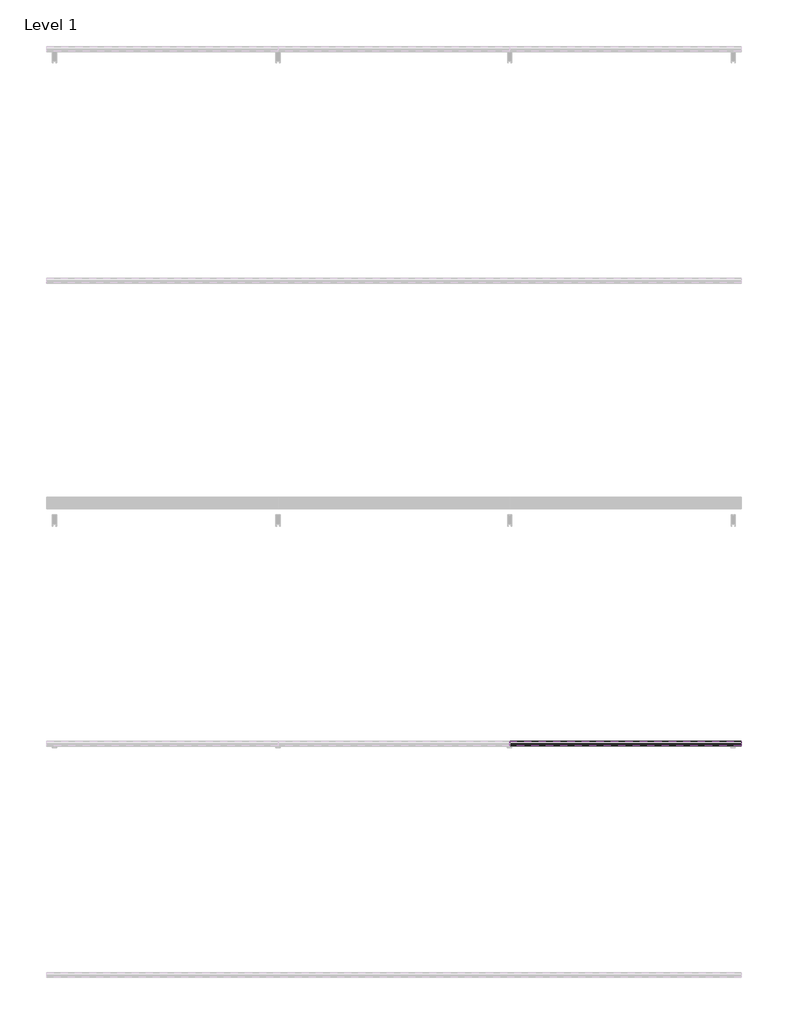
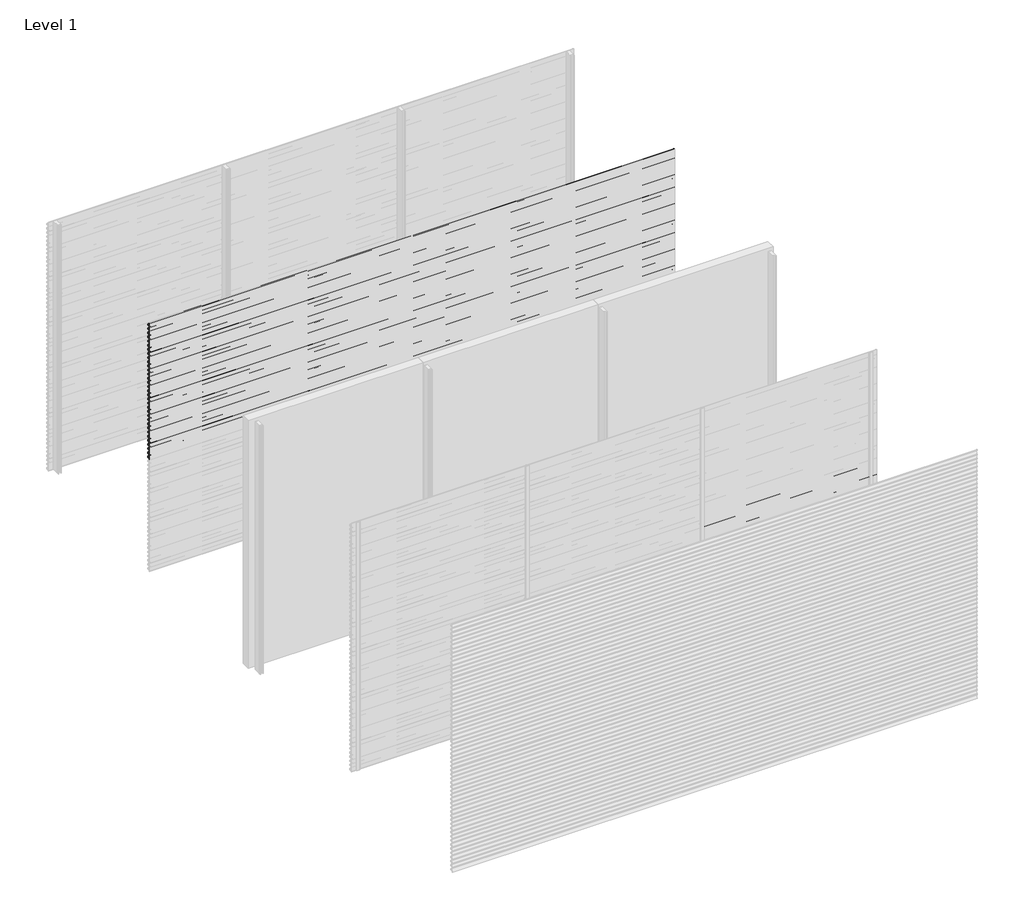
# One storey, part 24 of 38: 66 proxies.
"""IFC4 building model written with IfcOpenShell, lengths in millimetres."""

from ifc_helpers import new_model, si_unit, frame, origin, place, context, project, spatial, polyline, outline, extrude, element, save

model = new_model("IFC4")

# Units and contexts
model_context = context("Model", 3, world=origin())
ifc_project = project(units=[si_unit("LENGTHUNIT", "METRE", prefix="MILLI")], contexts=[model_context])

# Site, building, storey
site = spatial("IfcSite", under=ifc_project)
building = spatial("IfcBuilding", under=site)
storey = spatial("IfcBuildingStorey", under=building, Name="Level 1", Elevation=0.0)

# Proxies
placement = place(None, origin())
element("IfcBuildingElementProxy", 1, Name="Wall Sweeps", at=placement, inside=storey, context=model_context, shape_type="SweptSolid", body=[
    extrude(outline(polyline([(-19996.75, 3000.0), (-19996.75, 2989.19656), (-19974.6057113, 2976.4115489), (-19957.0, 2959.0472005), (-19957.0, 2944.0472005), (-19958.3, 2945.0268207), (-19958.3, 2958.5034593), (-19969.4914725, 2969.541504), (-19994.2797376, 2940.0), (-19995.9767671, 2940.0), (-19970.4200307, 2970.4573323), (-19975.3999793, 2975.3690091), (-19998.0, 2988.4171371), (-19998.0, 3000.0), (-19996.75, 3000.0)])), frame((0.0, 0.0, 0.0), z_axis=(1.0, 0.0, 0.0), x_axis=(0.0, 1.0, 0.0)), (0.0, 0.0, 1.0), 6000.0),
])
element("IfcBuildingElementProxy", 2, Name="Wall Sweeps", at=placement, inside=storey, context=model_context, shape_type="SweptSolid", body=[
    extrude(outline(polyline([(-19996.75, 2950.0), (-19996.75, 2939.19656), (-19974.6057113, 2926.4115489), (-19957.0, 2909.0472005), (-19957.0, 2894.0472005), (-19958.3, 2895.0268207), (-19958.3, 2908.5034593), (-19969.4914725, 2919.541504), (-19994.2797376, 2890.0), (-19995.9767671, 2890.0), (-19970.4200307, 2920.4573323), (-19975.3999793, 2925.3690091), (-19998.0, 2938.4171371), (-19998.0, 2950.0), (-19996.75, 2950.0)])), frame((0.0, 0.0, 0.0), z_axis=(1.0, 0.0, 0.0), x_axis=(0.0, 1.0, 0.0)), (0.0, 0.0, 1.0), 6000.0),
])
element("IfcBuildingElementProxy", 3, Name="Wall Sweeps", at=placement, inside=storey, context=model_context, shape_type="SweptSolid", body=[
    extrude(outline(polyline([(-19996.75, 2900.0), (-19996.75, 2889.19656), (-19974.6057113, 2876.4115489), (-19957.0, 2859.0472005), (-19957.0, 2844.0472005), (-19958.3, 2845.0268207), (-19958.3, 2858.5034593), (-19969.4914725, 2869.541504), (-19994.2797376, 2840.0), (-19995.9767671, 2840.0), (-19970.4200307, 2870.4573323), (-19975.3999793, 2875.3690091), (-19998.0, 2888.4171371), (-19998.0, 2900.0), (-19996.75, 2900.0)])), frame((0.0, 0.0, 0.0), z_axis=(1.0, 0.0, 0.0), x_axis=(0.0, 1.0, 0.0)), (0.0, 0.0, 1.0), 6000.0),
])
element("IfcBuildingElementProxy", 4, Name="Wall Sweeps", at=placement, inside=storey, context=model_context, shape_type="SweptSolid", body=[
    extrude(outline(polyline([(-19996.75, 2850.0), (-19996.75, 2839.19656), (-19974.6057113, 2826.4115489), (-19957.0, 2809.0472005), (-19957.0, 2794.0472005), (-19958.3, 2795.0268207), (-19958.3, 2808.5034593), (-19969.4914725, 2819.541504), (-19994.2797376, 2790.0), (-19995.9767671, 2790.0), (-19970.4200307, 2820.4573323), (-19975.3999793, 2825.3690091), (-19998.0, 2838.4171371), (-19998.0, 2850.0), (-19996.75, 2850.0)])), frame((0.0, 0.0, 0.0), z_axis=(1.0, 0.0, 0.0), x_axis=(0.0, 1.0, 0.0)), (0.0, 0.0, 1.0), 6000.0),
])
element("IfcBuildingElementProxy", 5, Name="Wall Sweeps", at=placement, inside=storey, context=model_context, shape_type="SweptSolid", body=[
    extrude(outline(polyline([(-19996.75, 2800.0), (-19996.75, 2789.19656), (-19974.6057113, 2776.4115489), (-19957.0, 2759.0472005), (-19957.0, 2744.0472005), (-19958.3, 2745.0268207), (-19958.3, 2758.5034593), (-19969.4914725, 2769.541504), (-19994.2797376, 2740.0), (-19995.9767671, 2740.0), (-19970.4200307, 2770.4573323), (-19975.3999793, 2775.3690091), (-19998.0, 2788.4171371), (-19998.0, 2800.0), (-19996.75, 2800.0)])), frame((0.0, 0.0, 0.0), z_axis=(1.0, 0.0, 0.0), x_axis=(0.0, 1.0, 0.0)), (0.0, 0.0, 1.0), 6000.0),
])
element("IfcBuildingElementProxy", 6, Name="Wall Sweeps", at=placement, inside=storey, context=model_context, shape_type="SweptSolid", body=[
    extrude(outline(polyline([(-19996.75, 2750.0), (-19996.75, 2739.19656), (-19974.6057113, 2726.4115489), (-19957.0, 2709.0472005), (-19957.0, 2694.0472005), (-19958.3, 2695.0268207), (-19958.3, 2708.5034593), (-19969.4914725, 2719.541504), (-19994.2797376, 2690.0), (-19995.9767671, 2690.0), (-19970.4200307, 2720.4573323), (-19975.3999793, 2725.3690091), (-19998.0, 2738.4171371), (-19998.0, 2750.0), (-19996.75, 2750.0)])), frame((0.0, 0.0, 0.0), z_axis=(1.0, 0.0, 0.0), x_axis=(0.0, 1.0, 0.0)), (0.0, 0.0, 1.0), 6000.0),
])
element("IfcBuildingElementProxy", 7, Name="Wall Sweeps", at=placement, inside=storey, context=model_context, shape_type="SweptSolid", body=[
    extrude(outline(polyline([(-19996.75, 2700.0), (-19996.75, 2689.19656), (-19974.6057113, 2676.4115489), (-19957.0, 2659.0472005), (-19957.0, 2644.0472005), (-19958.3, 2645.0268207), (-19958.3, 2658.5034593), (-19969.4914725, 2669.541504), (-19994.2797376, 2640.0), (-19995.9767671, 2640.0), (-19970.4200307, 2670.4573323), (-19975.3999793, 2675.3690091), (-19998.0, 2688.4171371), (-19998.0, 2700.0), (-19996.75, 2700.0)])), frame((0.0, 0.0, 0.0), z_axis=(1.0, 0.0, 0.0), x_axis=(0.0, 1.0, 0.0)), (0.0, 0.0, 1.0), 6000.0),
])
element("IfcBuildingElementProxy", 8, Name="Wall Sweeps", at=placement, inside=storey, context=model_context, shape_type="SweptSolid", body=[
    extrude(outline(polyline([(-19996.75, 2650.0), (-19996.75, 2639.19656), (-19974.6057113, 2626.4115489), (-19957.0, 2609.0472005), (-19957.0, 2594.0472005), (-19958.3, 2595.0268207), (-19958.3, 2608.5034593), (-19969.4914725, 2619.541504), (-19994.2797376, 2590.0), (-19995.9767671, 2590.0), (-19970.4200307, 2620.4573323), (-19975.3999793, 2625.3690091), (-19998.0, 2638.4171371), (-19998.0, 2650.0), (-19996.75, 2650.0)])), frame((0.0, 0.0, 0.0), z_axis=(1.0, 0.0, 0.0), x_axis=(0.0, 1.0, 0.0)), (0.0, 0.0, 1.0), 6000.0),
])
element("IfcBuildingElementProxy", 9, Name="Wall Sweeps", at=placement, inside=storey, context=model_context, shape_type="SweptSolid", body=[
    extrude(outline(polyline([(-19996.75, 2600.0), (-19996.75, 2589.19656), (-19974.6057113, 2576.4115489), (-19957.0, 2559.0472005), (-19957.0, 2544.0472005), (-19958.3, 2545.0268207), (-19958.3, 2558.5034593), (-19969.4914725, 2569.541504), (-19994.2797376, 2540.0), (-19995.9767671, 2540.0), (-19970.4200307, 2570.4573323), (-19975.3999793, 2575.3690091), (-19998.0, 2588.4171371), (-19998.0, 2600.0), (-19996.75, 2600.0)])), frame((0.0, 0.0, 0.0), z_axis=(1.0, 0.0, 0.0), x_axis=(0.0, 1.0, 0.0)), (0.0, 0.0, 1.0), 6000.0),
])
element("IfcBuildingElementProxy", 10, Name="Wall Sweeps", at=placement, inside=storey, context=model_context, shape_type="SweptSolid", body=[
    extrude(outline(polyline([(-19996.75, 2550.0), (-19996.75, 2539.19656), (-19974.6057113, 2526.4115489), (-19957.0, 2509.0472005), (-19957.0, 2494.0472005), (-19958.3, 2495.0268207), (-19958.3, 2508.5034593), (-19969.4914725, 2519.541504), (-19994.2797376, 2490.0), (-19995.9767671, 2490.0), (-19970.4200307, 2520.4573323), (-19975.3999793, 2525.3690091), (-19998.0, 2538.4171371), (-19998.0, 2550.0), (-19996.75, 2550.0)])), frame((0.0, 0.0, 0.0), z_axis=(1.0, 0.0, 0.0), x_axis=(0.0, 1.0, 0.0)), (0.0, 0.0, 1.0), 6000.0),
])
element("IfcBuildingElementProxy", 11, Name="Wall Sweeps", at=placement, inside=storey, context=model_context, shape_type="SweptSolid", body=[
    extrude(outline(polyline([(-19996.75, 2500.0), (-19996.75, 2489.19656), (-19974.6057113, 2476.4115489), (-19957.0, 2459.0472005), (-19957.0, 2444.0472005), (-19958.3, 2445.0268207), (-19958.3, 2458.5034593), (-19969.4914725, 2469.541504), (-19994.2797376, 2440.0), (-19995.9767671, 2440.0), (-19970.4200307, 2470.4573323), (-19975.3999793, 2475.3690091), (-19998.0, 2488.4171371), (-19998.0, 2500.0), (-19996.75, 2500.0)])), frame((0.0, 0.0, 0.0), z_axis=(1.0, 0.0, 0.0), x_axis=(0.0, 1.0, 0.0)), (0.0, 0.0, 1.0), 6000.0),
])
element("IfcBuildingElementProxy", 12, Name="Wall Sweeps", at=placement, inside=storey, context=model_context, shape_type="SweptSolid", body=[
    extrude(outline(polyline([(-19996.75, 2450.0), (-19996.75, 2439.19656), (-19974.6057113, 2426.4115489), (-19957.0, 2409.0472005), (-19957.0, 2394.0472005), (-19958.3, 2395.0268207), (-19958.3, 2408.5034593), (-19969.4914725, 2419.541504), (-19994.2797376, 2390.0), (-19995.9767671, 2390.0), (-19970.4200307, 2420.4573323), (-19975.3999793, 2425.3690091), (-19998.0, 2438.4171371), (-19998.0, 2450.0), (-19996.75, 2450.0)])), frame((0.0, 0.0, 0.0), z_axis=(1.0, 0.0, 0.0), x_axis=(0.0, 1.0, 0.0)), (0.0, 0.0, 1.0), 6000.0),
])
element("IfcBuildingElementProxy", 13, Name="Wall Sweeps", at=placement, inside=storey, context=model_context, shape_type="SweptSolid", body=[
    extrude(outline(polyline([(-19996.75, 2400.0), (-19996.75, 2389.19656), (-19974.6057113, 2376.4115489), (-19957.0, 2359.0472005), (-19957.0, 2344.0472005), (-19958.3, 2345.0268207), (-19958.3, 2358.5034593), (-19969.4914725, 2369.541504), (-19994.2797376, 2340.0), (-19995.9767671, 2340.0), (-19970.4200307, 2370.4573323), (-19975.3999793, 2375.3690091), (-19998.0, 2388.4171371), (-19998.0, 2400.0), (-19996.75, 2400.0)])), frame((0.0, 0.0, 0.0), z_axis=(1.0, 0.0, 0.0), x_axis=(0.0, 1.0, 0.0)), (0.0, 0.0, 1.0), 6000.0),
])
element("IfcBuildingElementProxy", 14, Name="Wall Sweeps", at=placement, inside=storey, context=model_context, shape_type="SweptSolid", body=[
    extrude(outline(polyline([(-19996.75, 2350.0), (-19996.75, 2339.19656), (-19974.6057113, 2326.4115489), (-19957.0, 2309.0472005), (-19957.0, 2294.0472005), (-19958.3, 2295.0268207), (-19958.3, 2308.5034593), (-19969.4914725, 2319.541504), (-19994.2797376, 2290.0), (-19995.9767671, 2290.0), (-19970.4200307, 2320.4573323), (-19975.3999793, 2325.3690091), (-19998.0, 2338.4171371), (-19998.0, 2350.0), (-19996.75, 2350.0)])), frame((0.0, 0.0, 0.0), z_axis=(1.0, 0.0, 0.0), x_axis=(0.0, 1.0, 0.0)), (0.0, 0.0, 1.0), 6000.0),
])
element("IfcBuildingElementProxy", 15, Name="Wall Sweeps", at=placement, inside=storey, context=model_context, shape_type="SweptSolid", body=[
    extrude(outline(polyline([(-19996.75, 2300.0), (-19996.75, 2289.19656), (-19974.6057113, 2276.4115489), (-19957.0, 2259.0472005), (-19957.0, 2244.0472005), (-19958.3, 2245.0268207), (-19958.3, 2258.5034593), (-19969.4914725, 2269.541504), (-19994.2797376, 2240.0), (-19995.9767671, 2240.0), (-19970.4200307, 2270.4573323), (-19975.3999793, 2275.3690091), (-19998.0, 2288.4171371), (-19998.0, 2300.0), (-19996.75, 2300.0)])), frame((0.0, 0.0, 0.0), z_axis=(1.0, 0.0, 0.0), x_axis=(0.0, 1.0, 0.0)), (0.0, 0.0, 1.0), 6000.0),
])
element("IfcBuildingElementProxy", 16, Name="Wall Sweeps", at=placement, inside=storey, context=model_context, shape_type="SweptSolid", body=[
    extrude(outline(polyline([(-19996.75, 2250.0), (-19996.75, 2239.19656), (-19974.6057113, 2226.4115489), (-19957.0, 2209.0472005), (-19957.0, 2194.0472005), (-19958.3, 2195.0268207), (-19958.3, 2208.5034593), (-19969.4914725, 2219.541504), (-19994.2797376, 2190.0), (-19995.9767671, 2190.0), (-19970.4200307, 2220.4573323), (-19975.3999793, 2225.3690091), (-19998.0, 2238.4171371), (-19998.0, 2250.0), (-19996.75, 2250.0)])), frame((0.0, 0.0, 0.0), z_axis=(1.0, 0.0, 0.0), x_axis=(0.0, 1.0, 0.0)), (0.0, 0.0, 1.0), 6000.0),
])
element("IfcBuildingElementProxy", 17, Name="Wall Sweeps", at=placement, inside=storey, context=model_context, shape_type="SweptSolid", body=[
    extrude(outline(polyline([(-19996.75, 2200.0), (-19996.75, 2189.19656), (-19974.6057113, 2176.4115489), (-19957.0, 2159.0472005), (-19957.0, 2144.0472005), (-19958.3, 2145.0268207), (-19958.3, 2158.5034593), (-19969.4914725, 2169.541504), (-19994.2797376, 2140.0), (-19995.9767671, 2140.0), (-19970.4200307, 2170.4573323), (-19975.3999793, 2175.3690091), (-19998.0, 2188.4171371), (-19998.0, 2200.0), (-19996.75, 2200.0)])), frame((0.0, 0.0, 0.0), z_axis=(1.0, 0.0, 0.0), x_axis=(0.0, 1.0, 0.0)), (0.0, 0.0, 1.0), 6000.0),
])
element("IfcBuildingElementProxy", 18, Name="Wall Sweeps", at=placement, inside=storey, context=model_context, shape_type="SweptSolid", body=[
    extrude(outline(polyline([(-19996.75, 2150.0), (-19996.75, 2139.19656), (-19974.6057113, 2126.4115489), (-19957.0, 2109.0472005), (-19957.0, 2094.0472005), (-19958.3, 2095.0268207), (-19958.3, 2108.5034593), (-19969.4914725, 2119.541504), (-19994.2797376, 2090.0), (-19995.9767671, 2090.0), (-19970.4200307, 2120.4573323), (-19975.3999793, 2125.3690091), (-19998.0, 2138.4171371), (-19998.0, 2150.0), (-19996.75, 2150.0)])), frame((0.0, 0.0, 0.0), z_axis=(1.0, 0.0, 0.0), x_axis=(0.0, 1.0, 0.0)), (0.0, 0.0, 1.0), 6000.0),
])
element("IfcBuildingElementProxy", 19, Name="Wall Sweeps", at=placement, inside=storey, context=model_context, shape_type="SweptSolid", body=[
    extrude(outline(polyline([(-19996.75, 2100.0), (-19996.75, 2089.19656), (-19974.6057113, 2076.4115489), (-19957.0, 2059.0472005), (-19957.0, 2044.0472005), (-19958.3, 2045.0268207), (-19958.3, 2058.5034593), (-19969.4914725, 2069.541504), (-19994.2797376, 2040.0), (-19995.9767671, 2040.0), (-19970.4200307, 2070.4573323), (-19975.3999793, 2075.3690091), (-19998.0, 2088.4171371), (-19998.0, 2100.0), (-19996.75, 2100.0)])), frame((0.0, 0.0, 0.0), z_axis=(1.0, 0.0, 0.0), x_axis=(0.0, 1.0, 0.0)), (0.0, 0.0, 1.0), 6000.0),
])
element("IfcBuildingElementProxy", 20, Name="Wall Sweeps", at=placement, inside=storey, context=model_context, shape_type="SweptSolid", body=[
    extrude(outline(polyline([(-19996.75, 2050.0), (-19996.75, 2039.19656), (-19974.6057113, 2026.4115489), (-19957.0, 2009.0472005), (-19957.0, 1994.0472005), (-19958.3, 1995.0268207), (-19958.3, 2008.5034593), (-19969.4914725, 2019.541504), (-19994.2797376, 1990.0), (-19995.9767671, 1990.0), (-19970.4200307, 2020.4573323), (-19975.3999793, 2025.3690091), (-19998.0, 2038.4171371), (-19998.0, 2050.0), (-19996.75, 2050.0)])), frame((0.0, 0.0, 0.0), z_axis=(1.0, 0.0, 0.0), x_axis=(0.0, 1.0, 0.0)), (0.0, 0.0, 1.0), 6000.0),
])
element("IfcBuildingElementProxy", 21, Name="Wall Sweeps", at=placement, inside=storey, context=model_context, shape_type="SweptSolid", body=[
    extrude(outline(polyline([(-19996.75, 2000.0), (-19996.75, 1989.19656), (-19974.6057113, 1976.4115489), (-19957.0, 1959.0472005), (-19957.0, 1944.0472005), (-19958.3, 1945.0268207), (-19958.3, 1958.5034593), (-19969.4914725, 1969.541504), (-19994.2797376, 1940.0), (-19995.9767671, 1940.0), (-19970.4200307, 1970.4573323), (-19975.3999793, 1975.3690091), (-19998.0, 1988.4171371), (-19998.0, 2000.0), (-19996.75, 2000.0)])), frame((0.0, 0.0, 0.0), z_axis=(1.0, 0.0, 0.0), x_axis=(0.0, 1.0, 0.0)), (0.0, 0.0, 1.0), 6000.0),
])
element("IfcBuildingElementProxy", 22, Name="Wall Sweeps", at=placement, inside=storey, context=model_context, shape_type="SweptSolid", body=[
    extrude(outline(polyline([(-19996.75, 1950.0), (-19996.75, 1939.19656), (-19974.6057113, 1926.4115489), (-19957.0, 1909.0472005), (-19957.0, 1894.0472005), (-19958.3, 1895.0268207), (-19958.3, 1908.5034593), (-19969.4914725, 1919.541504), (-19994.2797376, 1890.0), (-19995.9767671, 1890.0), (-19970.4200307, 1920.4573323), (-19975.3999793, 1925.3690091), (-19998.0, 1938.4171371), (-19998.0, 1950.0), (-19996.75, 1950.0)])), frame((0.0, 0.0, 0.0), z_axis=(1.0, 0.0, 0.0), x_axis=(0.0, 1.0, 0.0)), (0.0, 0.0, 1.0), 6000.0),
])
element("IfcBuildingElementProxy", 23, Name="Wall Sweeps", at=placement, inside=storey, context=model_context, shape_type="SweptSolid", body=[
    extrude(outline(polyline([(-19996.75, 1900.0), (-19996.75, 1889.19656), (-19974.6057113, 1876.4115489), (-19957.0, 1859.0472005), (-19957.0, 1844.0472005), (-19958.3, 1845.0268207), (-19958.3, 1858.5034593), (-19969.4914725, 1869.541504), (-19994.2797376, 1840.0), (-19995.9767671, 1840.0), (-19970.4200307, 1870.4573323), (-19975.3999793, 1875.3690091), (-19998.0, 1888.4171371), (-19998.0, 1900.0), (-19996.75, 1900.0)])), frame((0.0, 0.0, 0.0), z_axis=(1.0, 0.0, 0.0), x_axis=(0.0, 1.0, 0.0)), (0.0, 0.0, 1.0), 6000.0),
])
element("IfcBuildingElementProxy", 24, Name="Wall Sweeps", at=placement, inside=storey, context=model_context, shape_type="SweptSolid", body=[
    extrude(outline(polyline([(-19996.75, 1850.0), (-19996.75, 1839.19656), (-19974.6057113, 1826.4115489), (-19957.0, 1809.0472005), (-19957.0, 1794.0472005), (-19958.3, 1795.0268207), (-19958.3, 1808.5034593), (-19969.4914725, 1819.541504), (-19994.2797376, 1790.0), (-19995.9767671, 1790.0), (-19970.4200307, 1820.4573323), (-19975.3999793, 1825.3690091), (-19998.0, 1838.4171371), (-19998.0, 1850.0), (-19996.75, 1850.0)])), frame((0.0, 0.0, 0.0), z_axis=(1.0, 0.0, 0.0), x_axis=(0.0, 1.0, 0.0)), (0.0, 0.0, 1.0), 6000.0),
])
element("IfcBuildingElementProxy", 25, Name="Wall Sweeps", at=placement, inside=storey, context=model_context, shape_type="SweptSolid", body=[
    extrude(outline(polyline([(-19996.75, 1800.0), (-19996.75, 1789.19656), (-19974.6057113, 1776.4115489), (-19957.0, 1759.0472005), (-19957.0, 1744.0472005), (-19958.3, 1745.0268207), (-19958.3, 1758.5034593), (-19969.4914725, 1769.541504), (-19994.2797376, 1740.0), (-19995.9767671, 1740.0), (-19970.4200307, 1770.4573323), (-19975.3999793, 1775.3690091), (-19998.0, 1788.4171371), (-19998.0, 1800.0), (-19996.75, 1800.0)])), frame((0.0, 0.0, 0.0), z_axis=(1.0, 0.0, 0.0), x_axis=(0.0, 1.0, 0.0)), (0.0, 0.0, 1.0), 6000.0),
])
element("IfcBuildingElementProxy", 26, Name="Wall Sweeps", at=placement, inside=storey, context=model_context, shape_type="SweptSolid", body=[
    extrude(outline(polyline([(-19996.75, 1750.0), (-19996.75, 1739.19656), (-19974.6057113, 1726.4115489), (-19957.0, 1709.0472005), (-19957.0, 1694.0472005), (-19958.3, 1695.0268207), (-19958.3, 1708.5034593), (-19969.4914725, 1719.541504), (-19994.2797376, 1690.0), (-19995.9767671, 1690.0), (-19970.4200307, 1720.4573323), (-19975.3999793, 1725.3690091), (-19998.0, 1738.4171371), (-19998.0, 1750.0), (-19996.75, 1750.0)])), frame((0.0, 0.0, 0.0), z_axis=(1.0, 0.0, 0.0), x_axis=(0.0, 1.0, 0.0)), (0.0, 0.0, 1.0), 6000.0),
])
element("IfcBuildingElementProxy", 27, Name="Wall Sweeps", at=placement, inside=storey, context=model_context, shape_type="SweptSolid", body=[
    extrude(outline(polyline([(-19996.75, 1700.0), (-19996.75, 1689.19656), (-19974.6057113, 1676.4115489), (-19957.0, 1659.0472005), (-19957.0, 1644.0472005), (-19958.3, 1645.0268207), (-19958.3, 1658.5034593), (-19969.4914725, 1669.541504), (-19994.2797376, 1640.0), (-19995.9767671, 1640.0), (-19970.4200307, 1670.4573323), (-19975.3999793, 1675.3690091), (-19998.0, 1688.4171371), (-19998.0, 1700.0), (-19996.75, 1700.0)])), frame((0.0, 0.0, 0.0), z_axis=(1.0, 0.0, 0.0), x_axis=(0.0, 1.0, 0.0)), (0.0, 0.0, 1.0), 6000.0),
])
element("IfcBuildingElementProxy", 28, Name="Wall Sweeps", at=placement, inside=storey, context=model_context, shape_type="SweptSolid", body=[
    extrude(outline(polyline([(-19996.75, 1650.0), (-19996.75, 1639.19656), (-19974.6057113, 1626.4115489), (-19957.0, 1609.0472005), (-19957.0, 1594.0472005), (-19958.3, 1595.0268207), (-19958.3, 1608.5034593), (-19969.4914725, 1619.541504), (-19994.2797376, 1590.0), (-19995.9767671, 1590.0), (-19970.4200307, 1620.4573323), (-19975.3999793, 1625.3690091), (-19998.0, 1638.4171371), (-19998.0, 1650.0), (-19996.75, 1650.0)])), frame((0.0, 0.0, 0.0), z_axis=(1.0, 0.0, 0.0), x_axis=(0.0, 1.0, 0.0)), (0.0, 0.0, 1.0), 6000.0),
])
element("IfcBuildingElementProxy", 29, Name="Wall Sweeps", at=placement, inside=storey, context=model_context, shape_type="SweptSolid", body=[
    extrude(outline(polyline([(-19996.75, 1600.0), (-19996.75, 1589.19656), (-19974.6057113, 1576.4115489), (-19957.0, 1559.0472005), (-19957.0, 1544.0472005), (-19958.3, 1545.0268207), (-19958.3, 1558.5034593), (-19969.4914725, 1569.541504), (-19994.2797376, 1540.0), (-19995.9767671, 1540.0), (-19970.4200307, 1570.4573323), (-19975.3999793, 1575.3690091), (-19998.0, 1588.4171371), (-19998.0, 1600.0), (-19996.75, 1600.0)])), frame((0.0, 0.0, 0.0), z_axis=(1.0, 0.0, 0.0), x_axis=(0.0, 1.0, 0.0)), (0.0, 0.0, 1.0), 6000.0),
])
element("IfcBuildingElementProxy", 30, Name="Wall Sweeps", at=placement, inside=storey, context=model_context, shape_type="SweptSolid", body=[
    extrude(outline(polyline([(-19996.75, 1550.0), (-19996.75, 1539.19656), (-19974.6057113, 1526.4115489), (-19957.0, 1509.0472005), (-19957.0, 1494.0472005), (-19958.3, 1495.0268207), (-19958.3, 1508.5034593), (-19969.4914725, 1519.541504), (-19994.2797376, 1490.0), (-19995.9767671, 1490.0), (-19970.4200307, 1520.4573323), (-19975.3999793, 1525.3690091), (-19998.0, 1538.4171371), (-19998.0, 1550.0), (-19996.75, 1550.0)])), frame((0.0, 0.0, 0.0), z_axis=(1.0, 0.0, 0.0), x_axis=(0.0, 1.0, 0.0)), (0.0, 0.0, 1.0), 6000.0),
])
element("IfcBuildingElementProxy", 31, Name="Wall Sweeps", at=placement, inside=storey, context=model_context, shape_type="SweptSolid", body=[
    extrude(outline(polyline([(-19996.75, 1500.0), (-19996.75, 1489.19656), (-19974.6057113, 1476.4115489), (-19957.0, 1459.0472005), (-19957.0, 1444.0472005), (-19958.3, 1445.0268207), (-19958.3, 1458.5034593), (-19969.4914725, 1469.541504), (-19994.2797376, 1440.0), (-19995.9767671, 1440.0), (-19970.4200307, 1470.4573323), (-19975.3999793, 1475.3690091), (-19998.0, 1488.4171371), (-19998.0, 1500.0), (-19996.75, 1500.0)])), frame((0.0, 0.0, 0.0), z_axis=(1.0, 0.0, 0.0), x_axis=(0.0, 1.0, 0.0)), (0.0, 0.0, 1.0), 6000.0),
])
element("IfcBuildingElementProxy", 32, Name="Wall Sweeps", at=placement, inside=storey, context=model_context, shape_type="SweptSolid", body=[
    extrude(outline(polyline([(-19996.75, 1450.0), (-19996.75, 1439.19656), (-19974.6057113, 1426.4115489), (-19957.0, 1409.0472005), (-19957.0, 1394.0472005), (-19958.3, 1395.0268207), (-19958.3, 1408.5034593), (-19969.4914725, 1419.541504), (-19994.2797376, 1390.0), (-19995.9767671, 1390.0), (-19970.4200307, 1420.4573323), (-19975.3999793, 1425.3690091), (-19998.0, 1438.4171371), (-19998.0, 1450.0), (-19996.75, 1450.0)])), frame((0.0, 0.0, 0.0), z_axis=(1.0, 0.0, 0.0), x_axis=(0.0, 1.0, 0.0)), (0.0, 0.0, 1.0), 6000.0),
])
element("IfcBuildingElementProxy", 33, Name="Wall Sweeps", at=placement, inside=storey, context=model_context, shape_type="SweptSolid", body=[
    extrude(outline(polyline([(-19996.75, 1400.0), (-19996.75, 1389.19656), (-19974.6057113, 1376.4115489), (-19957.0, 1359.0472005), (-19957.0, 1344.0472005), (-19958.3, 1345.0268207), (-19958.3, 1358.5034593), (-19969.4914725, 1369.541504), (-19994.2797376, 1340.0), (-19995.9767671, 1340.0), (-19970.4200307, 1370.4573323), (-19975.3999793, 1375.3690091), (-19998.0, 1388.4171371), (-19998.0, 1400.0), (-19996.75, 1400.0)])), frame((0.0, 0.0, 0.0), z_axis=(1.0, 0.0, 0.0), x_axis=(0.0, 1.0, 0.0)), (0.0, 0.0, 1.0), 6000.0),
])
element("IfcBuildingElementProxy", 34, Name="Wall Sweeps", at=placement, inside=storey, context=model_context, shape_type="SweptSolid", body=[
    extrude(outline(polyline([(-23996.75, 1650.0), (-23996.75, 1639.19656), (-23974.6057113, 1626.4115489), (-23957.0, 1609.0472005), (-23957.0, 1594.0472005), (-23958.3, 1595.0268207), (-23958.3, 1608.5034593), (-23969.4914725, 1619.541504), (-23994.2797376, 1590.0), (-23995.9767671, 1590.0), (-23970.4200307, 1620.4573323), (-23975.3999793, 1625.3690091), (-23998.0, 1638.4171371), (-23998.0, 1650.0), (-23996.75, 1650.0)])), frame((4000.0, 0.0, 0.0), z_axis=(1.0, 0.0, 0.0), x_axis=(0.0, 1.0, 0.0)), (0.0, 0.0, 1.0), 2000.0),
])
element("IfcBuildingElementProxy", 35, Name="Wall Sweeps", at=placement, inside=storey, context=model_context, shape_type="SweptSolid", body=[
    extrude(outline(polyline([(-23996.75, 1600.0), (-23996.75, 1589.19656), (-23974.6057113, 1576.4115489), (-23957.0, 1559.0472005), (-23957.0, 1544.0472005), (-23958.3, 1545.0268207), (-23958.3, 1558.5034593), (-23969.4914725, 1569.541504), (-23994.2797376, 1540.0), (-23995.9767671, 1540.0), (-23970.4200307, 1570.4573323), (-23975.3999793, 1575.3690091), (-23998.0, 1588.4171371), (-23998.0, 1600.0), (-23996.75, 1600.0)])), frame((4000.0, 0.0, 0.0), z_axis=(1.0, 0.0, 0.0), x_axis=(0.0, 1.0, 0.0)), (0.0, 0.0, 1.0), 2000.0),
])
element("IfcBuildingElementProxy", 36, Name="Wall Sweeps", at=placement, inside=storey, context=model_context, shape_type="SweptSolid", body=[
    extrude(outline(polyline([(-23996.75, 1550.0), (-23996.75, 1539.19656), (-23974.6057113, 1526.4115489), (-23957.0, 1509.0472005), (-23957.0, 1494.0472005), (-23958.3, 1495.0268207), (-23958.3, 1508.5034593), (-23969.4914725, 1519.541504), (-23994.2797376, 1490.0), (-23995.9767671, 1490.0), (-23970.4200307, 1520.4573323), (-23975.3999793, 1525.3690091), (-23998.0, 1538.4171371), (-23998.0, 1550.0), (-23996.75, 1550.0)])), frame((4000.0, 0.0, 0.0), z_axis=(1.0, 0.0, 0.0), x_axis=(0.0, 1.0, 0.0)), (0.0, 0.0, 1.0), 2000.0),
])
element("IfcBuildingElementProxy", 37, Name="Wall Sweeps", at=placement, inside=storey, context=model_context, shape_type="SweptSolid", body=[
    extrude(outline(polyline([(-23996.75, 1500.0), (-23996.75, 1489.19656), (-23974.6057113, 1476.4115489), (-23957.0, 1459.0472005), (-23957.0, 1444.0472005), (-23958.3, 1445.0268207), (-23958.3, 1458.5034593), (-23969.4914725, 1469.541504), (-23994.2797376, 1440.0), (-23995.9767671, 1440.0), (-23970.4200307, 1470.4573323), (-23975.3999793, 1475.3690091), (-23998.0, 1488.4171371), (-23998.0, 1500.0), (-23996.75, 1500.0)])), frame((4000.0, 0.0, 0.0), z_axis=(1.0, 0.0, 0.0), x_axis=(0.0, 1.0, 0.0)), (0.0, 0.0, 1.0), 2000.0),
])
element("IfcBuildingElementProxy", 38, Name="Wall Sweeps", at=placement, inside=storey, context=model_context, shape_type="SweptSolid", body=[
    extrude(outline(polyline([(-23996.75, 1450.0), (-23996.75, 1439.19656), (-23974.6057113, 1426.4115489), (-23957.0, 1409.0472005), (-23957.0, 1394.0472005), (-23958.3, 1395.0268207), (-23958.3, 1408.5034593), (-23969.4914725, 1419.541504), (-23994.2797376, 1390.0), (-23995.9767671, 1390.0), (-23970.4200307, 1420.4573323), (-23975.3999793, 1425.3690091), (-23998.0, 1438.4171371), (-23998.0, 1450.0), (-23996.75, 1450.0)])), frame((4000.0, 0.0, 0.0), z_axis=(1.0, 0.0, 0.0), x_axis=(0.0, 1.0, 0.0)), (0.0, 0.0, 1.0), 2000.0),
])
element("IfcBuildingElementProxy", 39, Name="Wall Sweeps", at=placement, inside=storey, context=model_context, shape_type="SweptSolid", body=[
    extrude(outline(polyline([(-23996.75, 1400.0), (-23996.75, 1389.19656), (-23974.6057113, 1376.4115489), (-23957.0, 1359.0472005), (-23957.0, 1344.0472005), (-23958.3, 1345.0268207), (-23958.3, 1358.5034593), (-23969.4914725, 1369.541504), (-23994.2797376, 1340.0), (-23995.9767671, 1340.0), (-23970.4200307, 1370.4573323), (-23975.3999793, 1375.3690091), (-23998.0, 1388.4171371), (-23998.0, 1400.0), (-23996.75, 1400.0)])), frame((4000.0, 0.0, 0.0), z_axis=(1.0, 0.0, 0.0), x_axis=(0.0, 1.0, 0.0)), (0.0, 0.0, 1.0), 2000.0),
])
element("IfcBuildingElementProxy", 40, Name="Wall Sweeps", at=placement, inside=storey, context=model_context, shape_type="SweptSolid", body=[
    extrude(outline(polyline([(-23996.75, 1350.0), (-23996.75, 1339.19656), (-23974.6057113, 1326.4115489), (-23957.0, 1309.0472005), (-23957.0, 1294.0472005), (-23958.3, 1295.0268207), (-23958.3, 1308.5034593), (-23969.4914725, 1319.541504), (-23994.2797376, 1290.0), (-23995.9767671, 1290.0), (-23970.4200307, 1320.4573323), (-23975.3999793, 1325.3690091), (-23998.0, 1338.4171371), (-23998.0, 1350.0), (-23996.75, 1350.0)])), frame((4000.0, 0.0, 0.0), z_axis=(1.0, 0.0, 0.0), x_axis=(0.0, 1.0, 0.0)), (0.0, 0.0, 1.0), 2000.0),
])
element("IfcBuildingElementProxy", 41, Name="Wall Sweeps", at=placement, inside=storey, context=model_context, shape_type="SweptSolid", body=[
    extrude(outline(polyline([(-23996.75, 1300.0), (-23996.75, 1289.19656), (-23974.6057113, 1276.4115489), (-23957.0, 1259.0472005), (-23957.0, 1244.0472005), (-23958.3, 1245.0268207), (-23958.3, 1258.5034593), (-23969.4914725, 1269.541504), (-23994.2797376, 1240.0), (-23995.9767671, 1240.0), (-23970.4200307, 1270.4573323), (-23975.3999793, 1275.3690091), (-23998.0, 1288.4171371), (-23998.0, 1300.0), (-23996.75, 1300.0)])), frame((4000.0, 0.0, 0.0), z_axis=(1.0, 0.0, 0.0), x_axis=(0.0, 1.0, 0.0)), (0.0, 0.0, 1.0), 2000.0),
])
element("IfcBuildingElementProxy", 42, Name="Wall Sweeps", at=placement, inside=storey, context=model_context, shape_type="SweptSolid", body=[
    extrude(outline(polyline([(-23996.75, 1250.0), (-23996.75, 1239.19656), (-23974.6057113, 1226.4115489), (-23957.0, 1209.0472005), (-23957.0, 1194.0472005), (-23958.3, 1195.0268207), (-23958.3, 1208.5034593), (-23969.4914725, 1219.541504), (-23994.2797376, 1190.0), (-23995.9767671, 1190.0), (-23970.4200307, 1220.4573323), (-23975.3999793, 1225.3690091), (-23998.0, 1238.4171371), (-23998.0, 1250.0), (-23996.75, 1250.0)])), frame((4000.0, 0.0, 0.0), z_axis=(1.0, 0.0, 0.0), x_axis=(0.0, 1.0, 0.0)), (0.0, 0.0, 1.0), 2000.0),
])
element("IfcBuildingElementProxy", 43, Name="Wall Sweeps", at=placement, inside=storey, context=model_context, shape_type="SweptSolid", body=[
    extrude(outline(polyline([(-23996.75, 1200.0), (-23996.75, 1189.19656), (-23974.6057113, 1176.4115489), (-23957.0, 1159.0472005), (-23957.0, 1144.0472005), (-23958.3, 1145.0268207), (-23958.3, 1158.5034593), (-23969.4914725, 1169.541504), (-23994.2797376, 1140.0), (-23995.9767671, 1140.0), (-23970.4200307, 1170.4573323), (-23975.3999793, 1175.3690091), (-23998.0, 1188.4171371), (-23998.0, 1200.0), (-23996.75, 1200.0)])), frame((4000.0, 0.0, 0.0), z_axis=(1.0, 0.0, 0.0), x_axis=(0.0, 1.0, 0.0)), (0.0, 0.0, 1.0), 2000.0),
])
element("IfcBuildingElementProxy", 44, Name="Wall Sweeps", at=placement, inside=storey, context=model_context, shape_type="SweptSolid", body=[
    extrude(outline(polyline([(-23996.75, 1150.0), (-23996.75, 1139.19656), (-23974.6057113, 1126.4115489), (-23957.0, 1109.0472005), (-23957.0, 1094.0472005), (-23958.3, 1095.0268207), (-23958.3, 1108.5034593), (-23969.4914725, 1119.541504), (-23994.2797376, 1090.0), (-23995.9767671, 1090.0), (-23970.4200307, 1120.4573323), (-23975.3999793, 1125.3690091), (-23998.0, 1138.4171371), (-23998.0, 1150.0), (-23996.75, 1150.0)])), frame((4000.0, 0.0, 0.0), z_axis=(1.0, 0.0, 0.0), x_axis=(0.0, 1.0, 0.0)), (0.0, 0.0, 1.0), 2000.0),
])
element("IfcBuildingElementProxy", 45, Name="Wall Sweeps", at=placement, inside=storey, context=model_context, shape_type="SweptSolid", body=[
    extrude(outline(polyline([(-23996.75, 1100.0), (-23996.75, 1089.19656), (-23974.6057113, 1076.4115489), (-23957.0, 1059.0472005), (-23957.0, 1044.0472005), (-23958.3, 1045.0268207), (-23958.3, 1058.5034593), (-23969.4914725, 1069.541504), (-23994.2797376, 1040.0), (-23995.9767671, 1040.0), (-23970.4200307, 1070.4573323), (-23975.3999793, 1075.3690091), (-23998.0, 1088.4171371), (-23998.0, 1100.0), (-23996.75, 1100.0)])), frame((4000.0, 0.0, 0.0), z_axis=(1.0, 0.0, 0.0), x_axis=(0.0, 1.0, 0.0)), (0.0, 0.0, 1.0), 2000.0),
])
element("IfcBuildingElementProxy", 46, Name="Wall Sweeps", at=placement, inside=storey, context=model_context, shape_type="SweptSolid", body=[
    extrude(outline(polyline([(-23996.75, 1050.0), (-23996.75, 1039.19656), (-23974.6057113, 1026.4115489), (-23957.0, 1009.0472005), (-23957.0, 994.0472005), (-23958.3, 995.0268207), (-23958.3, 1008.5034593), (-23969.4914725, 1019.541504), (-23994.2797376, 990.0), (-23995.9767671, 990.0), (-23970.4200307, 1020.4573323), (-23975.3999793, 1025.3690091), (-23998.0, 1038.4171371), (-23998.0, 1050.0), (-23996.75, 1050.0)])), frame((4000.0, 0.0, 0.0), z_axis=(1.0, 0.0, 0.0), x_axis=(0.0, 1.0, 0.0)), (0.0, 0.0, 1.0), 2000.0),
])
element("IfcBuildingElementProxy", 47, Name="Wall Sweeps", at=placement, inside=storey, context=model_context, shape_type="SweptSolid", body=[
    extrude(outline(polyline([(-23996.75, 1000.0), (-23996.75, 989.19656), (-23974.6057113, 976.4115489), (-23957.0, 959.0472005), (-23957.0, 944.0472005), (-23958.3, 945.0268207), (-23958.3, 958.5034593), (-23969.4914725, 969.541504), (-23994.2797376, 940.0), (-23995.9767671, 940.0), (-23970.4200307, 970.4573323), (-23975.3999793, 975.3690091), (-23998.0, 988.4171371), (-23998.0, 1000.0), (-23996.75, 1000.0)])), frame((4000.0, 0.0, 0.0), z_axis=(1.0, 0.0, 0.0), x_axis=(0.0, 1.0, 0.0)), (0.0, 0.0, 1.0), 2000.0),
])
element("IfcBuildingElementProxy", 48, Name="Wall Sweeps", at=placement, inside=storey, context=model_context, shape_type="SweptSolid", body=[
    extrude(outline(polyline([(-23996.75, 950.0), (-23996.75, 939.19656), (-23974.6057113, 926.4115489), (-23957.0, 909.0472005), (-23957.0, 894.0472005), (-23958.3, 895.0268207), (-23958.3, 908.5034593), (-23969.4914725, 919.541504), (-23994.2797376, 890.0), (-23995.9767671, 890.0), (-23970.4200307, 920.4573323), (-23975.3999793, 925.3690091), (-23998.0, 938.4171371), (-23998.0, 950.0), (-23996.75, 950.0)])), frame((4000.0, 0.0, 0.0), z_axis=(1.0, 0.0, 0.0), x_axis=(0.0, 1.0, 0.0)), (0.0, 0.0, 1.0), 2000.0),
])
element("IfcBuildingElementProxy", 49, Name="Wall Sweeps", at=placement, inside=storey, context=model_context, shape_type="SweptSolid", body=[
    extrude(outline(polyline([(-23996.75, 900.0), (-23996.75, 889.19656), (-23974.6057113, 876.4115489), (-23957.0, 859.0472005), (-23957.0, 844.0472005), (-23958.3, 845.0268207), (-23958.3, 858.5034593), (-23969.4914725, 869.541504), (-23994.2797376, 840.0), (-23995.9767671, 840.0), (-23970.4200307, 870.4573323), (-23975.3999793, 875.3690091), (-23998.0, 888.4171371), (-23998.0, 900.0), (-23996.75, 900.0)])), frame((4000.0, 0.0, 0.0), z_axis=(1.0, 0.0, 0.0), x_axis=(0.0, 1.0, 0.0)), (0.0, 0.0, 1.0), 2000.0),
])
element("IfcBuildingElementProxy", 50, Name="Wall Sweeps", at=placement, inside=storey, context=model_context, shape_type="SweptSolid", body=[
    extrude(outline(polyline([(-23996.75, 850.0), (-23996.75, 839.19656), (-23974.6057113, 826.4115489), (-23957.0, 809.0472005), (-23957.0, 794.0472005), (-23958.3, 795.0268207), (-23958.3, 808.5034593), (-23969.4914725, 819.541504), (-23994.2797376, 790.0), (-23995.9767671, 790.0), (-23970.4200307, 820.4573323), (-23975.3999793, 825.3690091), (-23998.0, 838.4171371), (-23998.0, 850.0), (-23996.75, 850.0)])), frame((4000.0, 0.0, 0.0), z_axis=(1.0, 0.0, 0.0), x_axis=(0.0, 1.0, 0.0)), (0.0, 0.0, 1.0), 2000.0),
])
element("IfcBuildingElementProxy", 51, Name="Wall Sweeps", at=placement, inside=storey, context=model_context, shape_type="SweptSolid", body=[
    extrude(outline(polyline([(-23996.75, 800.0), (-23996.75, 789.19656), (-23974.6057113, 776.4115489), (-23957.0, 759.0472005), (-23957.0, 744.0472005), (-23958.3, 745.0268207), (-23958.3, 758.5034593), (-23969.4914725, 769.541504), (-23994.2797376, 740.0), (-23995.9767671, 740.0), (-23970.4200307, 770.4573323), (-23975.3999793, 775.3690091), (-23998.0, 788.4171371), (-23998.0, 800.0), (-23996.75, 800.0)])), frame((4000.0, 0.0, 0.0), z_axis=(1.0, 0.0, 0.0), x_axis=(0.0, 1.0, 0.0)), (0.0, 0.0, 1.0), 2000.0),
])
element("IfcBuildingElementProxy", 52, Name="Wall Sweeps", at=placement, inside=storey, context=model_context, shape_type="SweptSolid", body=[
    extrude(outline(polyline([(-23996.75, 750.0), (-23996.75, 739.19656), (-23974.6057113, 726.4115489), (-23957.0, 709.0472005), (-23957.0, 694.0472005), (-23958.3, 695.0268207), (-23958.3, 708.5034593), (-23969.4914725, 719.541504), (-23994.2797376, 690.0), (-23995.9767671, 690.0), (-23970.4200307, 720.4573323), (-23975.3999793, 725.3690091), (-23998.0, 738.4171371), (-23998.0, 750.0), (-23996.75, 750.0)])), frame((4000.0, 0.0, 0.0), z_axis=(1.0, 0.0, 0.0), x_axis=(0.0, 1.0, 0.0)), (0.0, 0.0, 1.0), 2000.0),
])
element("IfcBuildingElementProxy", 53, Name="Wall Sweeps", at=placement, inside=storey, context=model_context, shape_type="SweptSolid", body=[
    extrude(outline(polyline([(-23996.75, 700.0), (-23996.75, 689.19656), (-23974.6057113, 676.4115489), (-23957.0, 659.0472005), (-23957.0, 644.0472005), (-23958.3, 645.0268207), (-23958.3, 658.5034593), (-23969.4914725, 669.541504), (-23994.2797376, 640.0), (-23995.9767671, 640.0), (-23970.4200307, 670.4573323), (-23975.3999793, 675.3690091), (-23998.0, 688.4171371), (-23998.0, 700.0), (-23996.75, 700.0)])), frame((4000.0, 0.0, 0.0), z_axis=(1.0, 0.0, 0.0), x_axis=(0.0, 1.0, 0.0)), (0.0, 0.0, 1.0), 2000.0),
])
element("IfcBuildingElementProxy", 54, Name="Wall Sweeps", at=placement, inside=storey, context=model_context, shape_type="SweptSolid", body=[
    extrude(outline(polyline([(-23996.75, 650.0), (-23996.75, 639.19656), (-23974.6057113, 626.4115489), (-23957.0, 609.0472005), (-23957.0, 594.0472005), (-23958.3, 595.0268207), (-23958.3, 608.5034593), (-23969.4914725, 619.541504), (-23994.2797376, 590.0), (-23995.9767671, 590.0), (-23970.4200307, 620.4573323), (-23975.3999793, 625.3690091), (-23998.0, 638.4171371), (-23998.0, 650.0), (-23996.75, 650.0)])), frame((4000.0, 0.0, 0.0), z_axis=(1.0, 0.0, 0.0), x_axis=(0.0, 1.0, 0.0)), (0.0, 0.0, 1.0), 2000.0),
])
element("IfcBuildingElementProxy", 55, Name="Wall Sweeps", at=placement, inside=storey, context=model_context, shape_type="SweptSolid", body=[
    extrude(outline(polyline([(-23996.75, 600.0), (-23996.75, 589.19656), (-23974.6057113, 576.4115489), (-23957.0, 559.0472005), (-23957.0, 544.0472005), (-23958.3, 545.0268207), (-23958.3, 558.5034593), (-23969.4914725, 569.541504), (-23994.2797376, 540.0), (-23995.9767671, 540.0), (-23970.4200307, 570.4573323), (-23975.3999793, 575.3690091), (-23998.0, 588.4171371), (-23998.0, 600.0), (-23996.75, 600.0)])), frame((4000.0, 0.0, 0.0), z_axis=(1.0, 0.0, 0.0), x_axis=(0.0, 1.0, 0.0)), (0.0, 0.0, 1.0), 2000.0),
])
element("IfcBuildingElementProxy", 56, Name="Wall Sweeps", at=placement, inside=storey, context=model_context, shape_type="SweptSolid", body=[
    extrude(outline(polyline([(-23996.75, 550.0), (-23996.75, 539.19656), (-23974.6057113, 526.4115489), (-23957.0, 509.0472005), (-23957.0, 494.0472005), (-23958.3, 495.0268207), (-23958.3, 508.5034593), (-23969.4914725, 519.541504), (-23994.2797376, 490.0), (-23995.9767671, 490.0), (-23970.4200307, 520.4573323), (-23975.3999793, 525.3690091), (-23998.0, 538.4171371), (-23998.0, 550.0), (-23996.75, 550.0)])), frame((4000.0, 0.0, 0.0), z_axis=(1.0, 0.0, 0.0), x_axis=(0.0, 1.0, 0.0)), (0.0, 0.0, 1.0), 2000.0),
])
element("IfcBuildingElementProxy", 57, Name="Wall Sweeps", at=placement, inside=storey, context=model_context, shape_type="SweptSolid", body=[
    extrude(outline(polyline([(-23996.75, 500.0), (-23996.75, 489.19656), (-23974.6057113, 476.4115489), (-23957.0, 459.0472005), (-23957.0, 444.0472005), (-23958.3, 445.0268207), (-23958.3, 458.5034593), (-23969.4914725, 469.541504), (-23994.2797376, 440.0), (-23995.9767671, 440.0), (-23970.4200307, 470.4573323), (-23975.3999793, 475.3690091), (-23998.0, 488.4171371), (-23998.0, 500.0), (-23996.75, 500.0)])), frame((4000.0, 0.0, 0.0), z_axis=(1.0, 0.0, 0.0), x_axis=(0.0, 1.0, 0.0)), (0.0, 0.0, 1.0), 2000.0),
])
element("IfcBuildingElementProxy", 58, Name="Wall Sweeps", at=placement, inside=storey, context=model_context, shape_type="SweptSolid", body=[
    extrude(outline(polyline([(-23996.75, 450.0), (-23996.75, 439.19656), (-23974.6057113, 426.4115489), (-23957.0, 409.0472005), (-23957.0, 394.0472005), (-23958.3, 395.0268207), (-23958.3, 408.5034593), (-23969.4914725, 419.541504), (-23994.2797376, 390.0), (-23995.9767671, 390.0), (-23970.4200307, 420.4573323), (-23975.3999793, 425.3690091), (-23998.0, 438.4171371), (-23998.0, 450.0), (-23996.75, 450.0)])), frame((4000.0, 0.0, 0.0), z_axis=(1.0, 0.0, 0.0), x_axis=(0.0, 1.0, 0.0)), (0.0, 0.0, 1.0), 2000.0),
])
element("IfcBuildingElementProxy", 59, Name="Wall Sweeps", at=placement, inside=storey, context=model_context, shape_type="SweptSolid", body=[
    extrude(outline(polyline([(-23996.75, 400.0), (-23996.75, 389.19656), (-23974.6057113, 376.4115489), (-23957.0, 359.0472005), (-23957.0, 344.0472005), (-23958.3, 345.0268207), (-23958.3, 358.5034593), (-23969.4914725, 369.541504), (-23994.2797376, 340.0), (-23995.9767671, 340.0), (-23970.4200307, 370.4573323), (-23975.3999793, 375.3690091), (-23998.0, 388.4171371), (-23998.0, 400.0), (-23996.75, 400.0)])), frame((4000.0, 0.0, 0.0), z_axis=(1.0, 0.0, 0.0), x_axis=(0.0, 1.0, 0.0)), (0.0, 0.0, 1.0), 2000.0),
])
element("IfcBuildingElementProxy", 60, Name="Wall Sweeps", at=placement, inside=storey, context=model_context, shape_type="SweptSolid", body=[
    extrude(outline(polyline([(-23996.75, 350.0), (-23996.75, 339.19656), (-23974.6057113, 326.4115489), (-23957.0, 309.0472005), (-23957.0, 294.0472005), (-23958.3, 295.0268207), (-23958.3, 308.5034593), (-23969.4914725, 319.541504), (-23994.2797376, 290.0), (-23995.9767671, 290.0), (-23970.4200307, 320.4573323), (-23975.3999793, 325.3690091), (-23998.0, 338.4171371), (-23998.0, 350.0), (-23996.75, 350.0)])), frame((4000.0, 0.0, 0.0), z_axis=(1.0, 0.0, 0.0), x_axis=(0.0, 1.0, 0.0)), (0.0, 0.0, 1.0), 2000.0),
])
element("IfcBuildingElementProxy", 61, Name="Wall Sweeps", at=placement, inside=storey, context=model_context, shape_type="SweptSolid", body=[
    extrude(outline(polyline([(-23996.75, 300.0), (-23996.75, 289.19656), (-23974.6057113, 276.4115489), (-23957.0, 259.0472005), (-23957.0, 244.0472005), (-23958.3, 245.0268207), (-23958.3, 258.5034593), (-23969.4914725, 269.541504), (-23994.2797376, 240.0), (-23995.9767671, 240.0), (-23970.4200307, 270.4573323), (-23975.3999793, 275.3690091), (-23998.0, 288.4171371), (-23998.0, 300.0), (-23996.75, 300.0)])), frame((4000.0, 0.0, 0.0), z_axis=(1.0, 0.0, 0.0), x_axis=(0.0, 1.0, 0.0)), (0.0, 0.0, 1.0), 2000.0),
])
element("IfcBuildingElementProxy", 62, Name="Wall Sweeps", at=placement, inside=storey, context=model_context, shape_type="SweptSolid", body=[
    extrude(outline(polyline([(-23996.75, 250.0), (-23996.75, 239.19656), (-23974.6057113, 226.4115489), (-23957.0, 209.0472005), (-23957.0, 194.0472005), (-23958.3, 195.0268207), (-23958.3, 208.5034593), (-23969.4914725, 219.541504), (-23994.2797376, 190.0), (-23995.9767671, 190.0), (-23970.4200307, 220.4573323), (-23975.3999793, 225.3690091), (-23998.0, 238.4171371), (-23998.0, 250.0), (-23996.75, 250.0)])), frame((4000.0, 0.0, 0.0), z_axis=(1.0, 0.0, 0.0), x_axis=(0.0, 1.0, 0.0)), (0.0, 0.0, 1.0), 2000.0),
])
element("IfcBuildingElementProxy", 63, Name="Wall Sweeps", at=placement, inside=storey, context=model_context, shape_type="SweptSolid", body=[
    extrude(outline(polyline([(-23996.75, 200.0), (-23996.75, 189.19656), (-23974.6057113, 176.4115489), (-23957.0, 159.0472005), (-23957.0, 144.0472005), (-23958.3, 145.0268207), (-23958.3, 158.5034593), (-23969.4914725, 169.541504), (-23994.2797376, 140.0), (-23995.9767671, 140.0), (-23970.4200307, 170.4573323), (-23975.3999793, 175.3690091), (-23998.0, 188.4171371), (-23998.0, 200.0), (-23996.75, 200.0)])), frame((4000.0, 0.0, 0.0), z_axis=(1.0, 0.0, 0.0), x_axis=(0.0, 1.0, 0.0)), (0.0, 0.0, 1.0), 2000.0),
])
element("IfcBuildingElementProxy", 64, Name="Wall Sweeps", at=placement, inside=storey, context=model_context, shape_type="SweptSolid", body=[
    extrude(outline(polyline([(-23996.75, 150.0), (-23996.75, 139.19656), (-23974.6057113, 126.4115489), (-23957.0, 109.0472005), (-23957.0, 94.0472005), (-23958.3, 95.0268207), (-23958.3, 108.5034593), (-23969.4914725, 119.541504), (-23994.2797376, 90.0), (-23995.9767671, 90.0), (-23970.4200307, 120.4573323), (-23975.3999793, 125.3690091), (-23998.0, 138.4171371), (-23998.0, 150.0), (-23996.75, 150.0)])), frame((4000.0, 0.0, 0.0), z_axis=(1.0, 0.0, 0.0), x_axis=(0.0, 1.0, 0.0)), (0.0, 0.0, 1.0), 2000.0),
])
element("IfcBuildingElementProxy", 65, Name="Wall Sweeps", at=placement, inside=storey, context=model_context, shape_type="SweptSolid", body=[
    extrude(outline(polyline([(-23996.75, 100.0), (-23996.75, 89.19656), (-23974.6057113, 76.4115489), (-23957.0, 59.0472005), (-23957.0, 44.0472005), (-23958.3, 45.0268207), (-23958.3, 58.5034593), (-23969.4914725, 69.541504), (-23994.2797376, 40.0), (-23995.9767671, 40.0), (-23970.4200307, 70.4573323), (-23975.3999793, 75.3690091), (-23998.0, 88.4171371), (-23998.0, 100.0), (-23996.75, 100.0)])), frame((4000.0, 0.0, 0.0), z_axis=(1.0, 0.0, 0.0), x_axis=(0.0, 1.0, 0.0)), (0.0, 0.0, 1.0), 2000.0),
])
element("IfcBuildingElementProxy", 66, Name="Wall Sweeps", at=placement, inside=storey, context=model_context, shape_type="SweptSolid", body=[
    extrude(outline(polyline([(-23996.75, 50.0), (-23996.75, 39.19656), (-23974.6057113, 26.4115489), (-23957.0, 9.0472005), (-23957.0, -5.9527995), (-23958.3, -4.9731793), (-23958.3, 8.5034593), (-23969.4914725, 19.541504), (-23994.2797376, -10.0), (-23995.9767671, -10.0), (-23970.4200307, 20.4573323), (-23975.3999793, 25.3690091), (-23998.0, 38.4171371), (-23998.0, 50.0), (-23996.75, 50.0)])), frame((4000.0, 0.0, 0.0), z_axis=(1.0, 0.0, 0.0), x_axis=(0.0, 1.0, 0.0)), (0.0, 0.0, 1.0), 2000.0),
])

save(model, "model.ifc")
